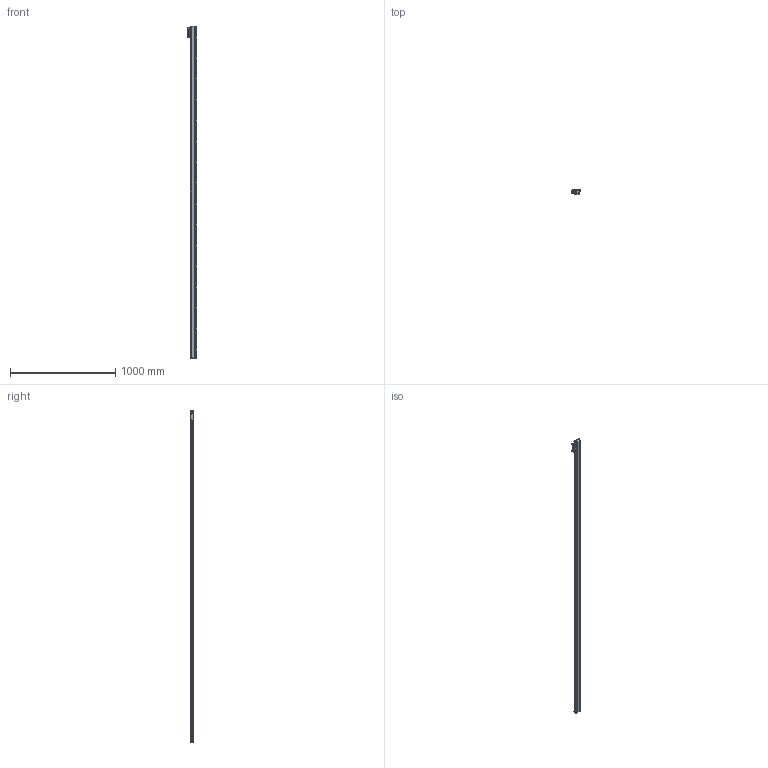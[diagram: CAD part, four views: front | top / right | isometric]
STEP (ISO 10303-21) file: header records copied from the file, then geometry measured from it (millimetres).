
FILE_DESCRIPTION(/* description */ (''),/* implementation_level */ '2;1');
FILE_NAME(/* name */ 'JC21A-3040-1.stp',/* time_stamp */ '2023-12-21T17:23:10+08:00',/* author */ (''),/* organization */ (''),/* preprocessor_version */ 'ST-DEVELOPER v14',/* originating_system */ 'SIEMENS PLM Software NX 8.0',/* authorisation */ '');
FILE_SCHEMA (('CONFIG_CONTROL_DESIGN'));
Length unit declared in the file: millimetre
Products named in the file (1): JC21A-3040-1
Bounding box: 87.5 x 37 x 3161 mm (x, y, z)
Volume: 4905126.3 mm3; surface area: 788457.9 mm2
Topology: 4 solids, 6 shells, 1627 faces, 4904 edges, 3269 vertices
Faces by surface type: plane 1022, cylinder 573, cone 22, bspline 8, extrusion 2
Full cylindrical faces by diameter (mm): 2.5 x12, 3.3 x6, 3.7 x4, 4.2 x4, 5 x2, 6 x6, 6.6 x2, 6.8 x34, 7 x2, 13.2 x2
Entity records: 56403 total; most frequent: CARTESIAN_POINT 11483, ORIENTED_EDGE 9516, DIRECTION 9366, EDGE_CURVE 4758, VERTEX_POINT 3219, AXIS2_PLACEMENT_3D 3147, VECTOR 3072, LINE 3070
